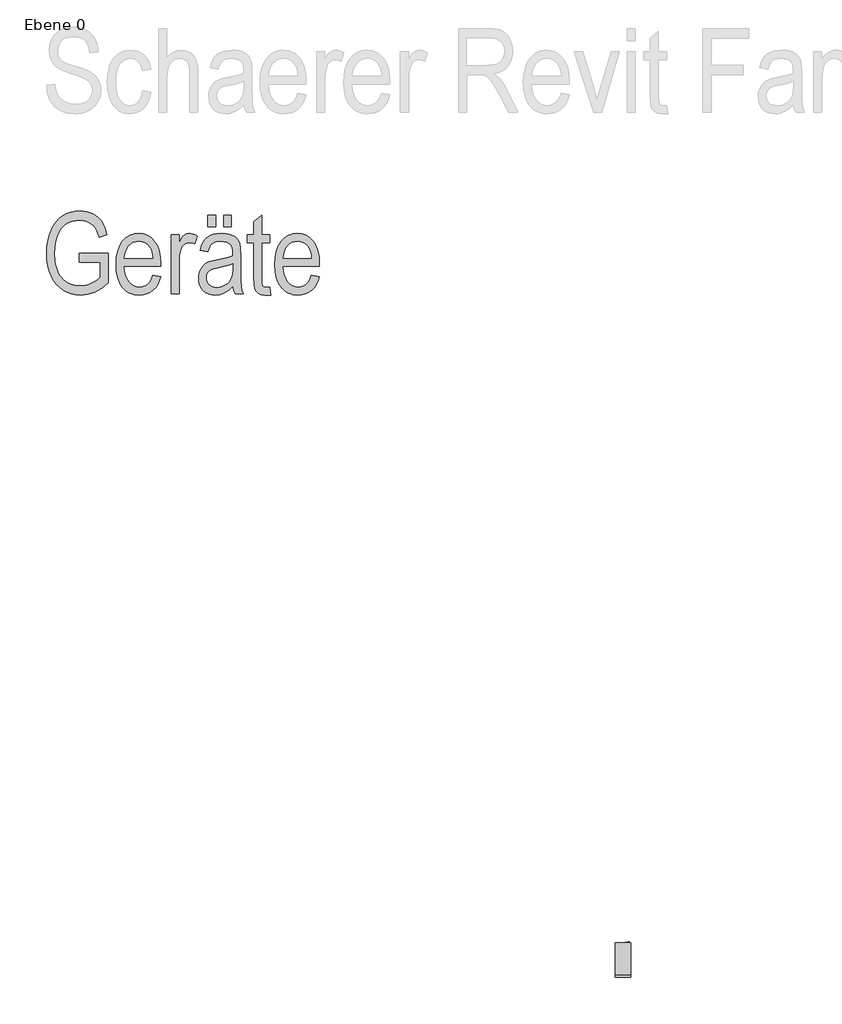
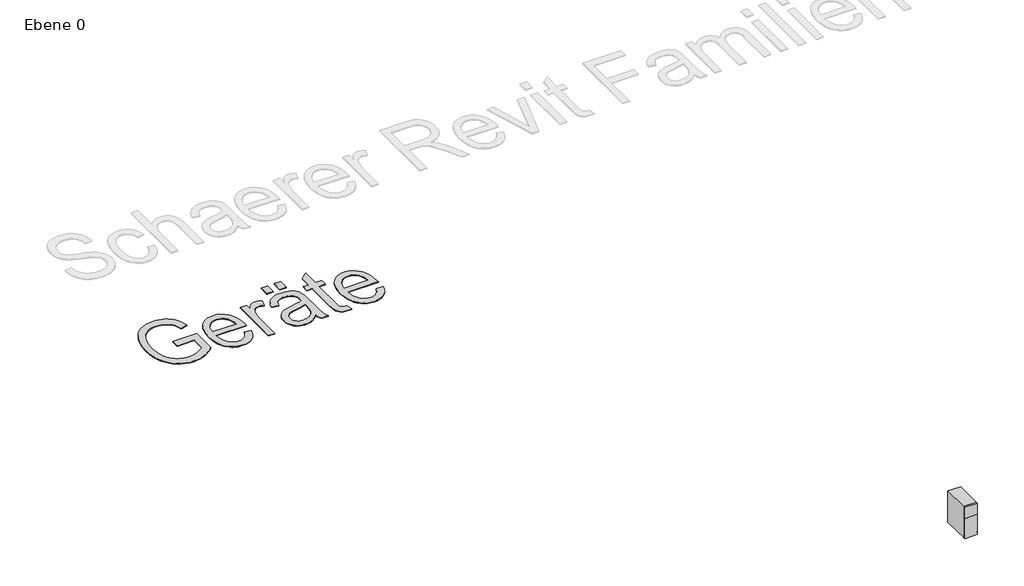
# One storey, part 1 of 2: 2 proxies.
"""IFC4 building model written with IfcOpenShell, lengths in millimetres."""

from ifc_helpers import new_model, si_unit, origin, origin_with_axes, place, context, project, spatial, polyline, outline, extrude, transform, mapped, element, save
from components import specialty_equipment_9da87bf8

model = new_model("IFC4")

# Units and contexts
model_context = context("Model", 3, world=origin())
ifc_project = project(units=[si_unit("LENGTHUNIT", "METRE", prefix="MILLI")], contexts=[model_context])

# Site, building, storey
site = spatial("IfcSite", under=ifc_project)
building = spatial("IfcBuilding", under=site)
storey = spatial("IfcBuildingStorey", under=building, Name="Ebene 0", Elevation=0.0)

# Proxies
placement = place(None, origin())
specialty_equipment_shape = specialty_equipment_9da87bf8(model_context)
element("IfcBuildingElementProxy", 1, Name="QF_SCHAERER_Bestellkühleinheit 7 Liter : Beistellkühleinheit 7 Liter", ObjectType="QF_SCHAERER_Bestellkühleinheit 7 Liter : Beistellkühleinheit 7 Liter", at=placement, inside=storey, context=model_context, shape_type="MappedRepresentation", body=[
    mapped(specialty_equipment_shape, transform((-22972.7283939, 3187.7616131, 0.0), x_axis=(1.0, 0.0, 0.0), y_axis=(0.0, 1.0, 0.0), z_axis=(0.0, 0.0, 1.0))),
])
element("IfcBuildingElementProxy", 2, Name="2000mm Arial", ObjectType="2000mm Arial", at=placement, inside=storey, context=model_context, shape_type="SweptSolid", body=[
    extrude(outline(polyline([(-29581.3885287, 11458.3695551), (-29581.3885287, 11569.9320551), (-29230.7635287, 11569.9320551), (-29230.7635287, 11207.851977), (-29270.459421, 11173.2844111), (-29310.8556918, 11143.2926508), (-29351.952341, 11117.8766962), (-29393.7493685, 11097.0365473), (-29436.1845187, 11080.803332), (-29479.1955355, 11069.2081782), (-29522.7824191, 11062.2510859), (-29566.9451693, 11059.9320551), (-29624.6096591, 11063.6362788), (-29679.0679721, 11074.7489497), (-29730.3201083, 11093.2700678), (-29778.3660678, 11119.1996333), (-29822.3965243, 11152.2341486), (-29861.6021517, 11192.0701167), (-29895.9829501, 11238.7075373), (-29925.5389193, 11292.1464106), (-29949.2895297, 11351.8419978), (-29966.2542514, 11417.24956), (-29976.4330844, 11488.3690974), (-29979.8260287, 11565.2006098), (-29976.4330844, 11643.3861872), (-29966.2542514, 11716.3267085), (-29949.2895297, 11784.0221735), (-29925.5389193, 11846.4725825), (-29896.2942294, 11902.3783442), (-29862.8472689, 11950.4398676), (-29825.198038, 11990.6571528), (-29783.3465365, 12023.0301997), (-29737.3861483, 12047.9247614), (-29687.4102572, 12065.7065913), (-29633.4188632, 12076.3756892), (-29575.4119662, 12079.9320551), (-29532.4787692, 12077.9087397), (-29492.3315219, 12071.8387934), (-29454.9702243, 12061.7222163), (-29420.3948764, 12047.5590083), (-29388.675516, 12029.6915766), (-29359.882181, 12008.4623286), (-29334.0148715, 11983.8712641), (-29311.0735873, 11955.9183833), (-29290.9415988, 11923.5142085), (-29273.5021762, 11885.5692622), (-29258.7553195, 11842.0835444), (-29246.7010287, 11793.0570551), (-29342.3260287, 11761.1820551), (-29364.8626498, 11831.9358393), (-29378.0920199, 11859.6786066), (-29392.6287631, 11882.3319575), (-29409.0254, 11901.3589045), (-29427.8344515, 11918.2224604), (-29472.6897982, 11945.4593989), (-29498.3003024, 11955.4825922), (-29525.451639, 11962.6420161), (-29584.3768099, 11968.3695551), (-29627.8936556, 11965.6769892), (-29668.2977084, 11957.5992915), (-29705.5889681, 11944.1364619), (-29739.7674349, 11925.2885004), (-29770.7864169, 11900.7596919), (-29798.5992221, 11870.2543208), (-29823.2058505, 11833.7723872), (-29844.6063021, 11791.3138911), (-29861.928995, 11743.3768794), (-29874.3023471, 11690.4593989), (-29881.7263583, 11632.5614497), (-29884.2010287, 11569.6830317), (-29878.7847689, 11476.2058588), (-29872.0144442, 11434.1598078), (-29862.5359896, 11395.2421137), (-29850.3494052, 11359.4527766), (-29835.4546908, 11326.7917963), (-29817.8518466, 11297.2591731), (-29797.5408724, 11270.8549067), (-29775.0626162, 11247.5673243), (-29750.9579257, 11227.3847529), (-29725.2268008, 11210.3071925), (-29697.8692416, 11196.334643), (-29668.8852481, 11185.4671046), (-29638.2748202, 11177.7045771), (-29606.037958, 11173.0470606), (-29572.1746615, 11171.4945551), (-29538.8599948, 11173.3933588), (-29505.1562289, 11179.08977), (-29471.0633639, 11188.5837885), (-29436.5813998, 11201.8754145), (-29374.3566683, 11235.1200434), (-29348.5905245, 11253.890185), (-29326.3885287, 11274.0922114), (-29326.3885287, 11458.3695551), (-29581.3885287, 11458.3695551)])), origin_with_axes(), (0.0, 0.0, 1.0), 10.0),
    extrude(outline(polyline([(-28688.8885287, 11298.9945551), (-28593.2635287, 11283.0570551), (-28608.8119296, 11231.1667963), (-28629.5586947, 11186.0624262), (-28655.5038241, 11147.7439448), (-28686.6473178, 11116.211352), (-28722.413309, 11091.5891596), (-28762.225931, 11074.0018794), (-28806.085184, 11063.4495112), (-28853.9910678, 11059.9320551), (-28913.8656405, 11065.8541438), (-28941.550043, 11073.2567545), (-28967.7325228, 11083.6204096), (-28992.4130801, 11096.945109), (-29015.5917147, 11113.2308527), (-29057.4432162, 11154.6854731), (-29075.6530551, 11179.6909281), (-29091.4349154, 11207.3305842), (-29104.7887973, 11237.6044413), (-29115.7147006, 11270.5124995), (-29130.2825717, 11344.231219), (-29135.1385287, 11428.4867426), (-29130.2592257, 11515.7461115), (-29115.6213168, 11592.0017573), (-29104.6428851, 11626.003184), (-29091.2248019, 11657.2536799), (-29075.3670672, 11685.753245), (-29057.069681, 11711.5018794), (-29015.4438571, 11754.154925), (-28992.687395, 11770.9114787), (-28968.6352328, 11784.6213862), (-28943.2873706, 11795.2846476), (-28916.6438082, 11802.9012629), (-28859.4695834, 11808.9945551), (-28804.6922091, 11803.1113764), (-28754.6618441, 11785.4618403), (-28709.3784884, 11756.0459467), (-28668.842142, 11714.8636958), (-28650.9533099, 11690.0158259), (-28635.4496554, 11662.537646), (-28611.5978793, 11599.6903559), (-28597.2868136, 11526.3218256), (-28592.5164584, 11442.4320551), (-28593.2635287, 11410.5570551), (-29039.5135287, 11410.5570551), (-29033.4046725, 11351.1960932), (-29021.5527133, 11299.6171137), (-29003.957651, 11255.8201167), (-28980.6194857, 11219.805102), (-28952.9701022, 11191.6965815), (-28922.4413851, 11171.6190669), (-28889.0333346, 11159.5725581), (-28852.7459506, 11155.5570551), (-28824.4195346, 11157.7982661), (-28798.3343295, 11164.5218989), (-28774.4903353, 11175.7279536), (-28752.8875521, 11191.4164301), (-28733.5259799, 11211.5873286), (-28716.4056185, 11236.2406489), (-28701.5264681, 11265.3763911), (-28688.8885287, 11298.9945551)]), holes=[polyline([(-29033.0389193, 11506.1820551), (-28688.8885287, 11506.1820551), (-28694.1180209, 11550.0413081), (-28702.8338412, 11587.9862544), (-28715.0359896, 11620.016894), (-28730.7244662, 11646.133227), (-28757.5878695, 11675.5491206), (-28787.8753451, 11696.5604731), (-28821.586893, 11709.1672846), (-28858.7225131, 11713.3695551), (-28892.5430087, 11709.867663), (-28923.7798861, 11699.3619868), (-28952.4331454, 11681.8525263), (-28978.5027865, 11657.3392817), (-29000.4946688, 11626.8806025), (-29016.9146517, 11591.5348383), (-29027.7627352, 11551.3019892), (-29033.0389193, 11506.1820551)])]), origin_with_axes(), (0.0, 0.0, 1.0), 10.0),
    extrude(outline(polyline([(-28465.7635287, 11075.8695551), (-28465.7635287, 11793.0570551), (-28370.1385287, 11793.0570551), (-28370.1385287, 11697.930102), (-28338.139017, 11753.8358637), (-28323.1664828, 11773.2908198), (-28308.8787631, 11787.0804926), (-28279.244974, 11803.5160395), (-28246.1248568, 11808.9945551), (-28221.7205599, 11807.0023676), (-28197.0672396, 11801.0258051), (-28172.1648959, 11791.0648676), (-28147.0135287, 11777.1195551), (-28178.8885287, 11681.4945551), (-28216.4910678, 11693.4476801), (-28253.0975131, 11697.4320551), (-28284.3188265, 11691.735644), (-28312.7386264, 11674.6464106), (-28335.7421664, 11647.3472163), (-28350.7147006, 11611.0209223), (-28365.2825717, 11537.7457758), (-28370.1385287, 11459.8636958), (-28370.1385287, 11075.8695551), (-28465.7635287, 11075.8695551)])), origin_with_axes(), (0.0, 0.0, 1.0), 10.0),
    extrude(outline(polyline([(-27716.7010287, 11165.0199458), (-27767.2839144, 11119.1996333), (-27819.9212435, 11086.3285395), (-27847.0103244, 11074.7800776), (-27874.613016, 11066.5311762), (-27902.7293185, 11061.5818354), (-27931.3592318, 11059.9320551), (-27974.6270541, 11063.4028193), (-28013.2879428, 11073.8151118), (-28047.3418978, 11091.1689326), (-28076.7889193, 11115.4642817), (-28100.5395297, 11145.6272456), (-28117.5042514, 11180.5839106), (-28127.6830844, 11220.3342768), (-28131.0760287, 11264.8783442), (-28129.4495944, 11295.1191279), (-28124.5702914, 11323.5856196), (-28116.4381198, 11350.2778193), (-28105.0530795, 11375.195727), (-28090.8509616, 11397.9113337), (-28074.267557, 11417.9966303), (-28055.3028659, 11435.4516169), (-28033.9568881, 11450.2762934), (-28008.5098056, 11462.9064509), (-27977.2418002, 11473.7778803), (-27897.2430209, 11490.2445551), (-27790.5987338, 11512.2831294), (-27749.5565585, 11524.7031733), (-27716.7010287, 11538.0570551), (-27716.7010287, 11568.6869379), (-27718.3975009, 11602.3362299), (-27723.4869174, 11630.5692622), (-27731.9692782, 11653.3860346), (-27743.8445834, 11670.7865473), (-27765.4473666, 11689.4166132), (-27792.1551303, 11702.7238032), (-27823.9678744, 11710.7081171), (-27860.885599, 11713.3695551), (-27894.2547396, 11711.6964289), (-27923.1414584, 11706.6770503), (-27947.5457553, 11698.3114191), (-27967.4676303, 11686.5995356), (-27983.980997, 11670.2651545), (-27998.1597689, 11648.0320307), (-28010.0039462, 11619.9001643), (-28019.5135287, 11585.8695551), (-28115.1385287, 11601.8070551), (-28101.9869784, 11652.2887751), (-28083.4502963, 11695.4087397), (-28059.5284823, 11731.1669489), (-28030.2215365, 11759.5634028), (-27994.7823886, 11781.1895319), (-27952.4639681, 11796.636767), (-27903.2662753, 11805.9051081), (-27847.1893099, 11808.9945551), (-27803.2522372, 11806.823382), (-27764.3267611, 11800.3098628), (-27730.4128817, 11789.4539973), (-27701.510599, 11774.2557856), (-27677.5498751, 11755.8513972), (-27658.4606723, 11735.3770014), (-27644.2429904, 11712.8325983), (-27634.8968295, 11688.2181879), (-27624.5312289, 11625.0907465), (-27621.0760287, 11538.3060786), (-27621.0760287, 11376.1918208), (-27619.4573764, 11237.5791499), (-27614.6014193, 11161.9071528), (-27605.014017, 11118.2969233), (-27589.2010287, 11075.8695551), (-27684.8260287, 11075.8695551), (-27704.9969271, 11116.8339106), (-27716.7010287, 11165.0199458)]), holes=[polyline([(-27716.7010287, 11442.4320551), (-27748.9651278, 11428.8914057), (-27788.2330111, 11416.4091059), (-27887.7801303, 11394.6195551), (-27943.8415316, 11382.8843256), (-27980.0433139, 11369.5926997), (-28003.3892611, 11352.5968501), (-28020.8831576, 11329.7489497), (-28031.8090609, 11302.0139643), (-28035.4510287, 11270.3568598), (-28033.3654574, 11245.5245539), (-28027.1087435, 11223.3225581), (-28016.6808871, 11203.7508723), (-28002.0818881, 11186.8094965), (-27983.7942294, 11173.1365534), (-27962.3003939, 11163.3701655), (-27937.6003817, 11157.5103327), (-27909.6941928, 11155.5570551), (-27882.3171786, 11157.3235651), (-27856.2164096, 11162.6230952), (-27831.3918856, 11171.4556452), (-27807.8436068, 11183.8212153), (-27786.3808993, 11199.1361567), (-27767.8130892, 11216.8168208), (-27752.1401766, 11236.8632075), (-27739.3621615, 11259.2753169), (-27729.4479159, 11285.5706355), (-27722.3663119, 11317.2666499), (-27718.1173495, 11354.3633601), (-27716.7010287, 11396.8607661), (-27716.7010287, 11442.4320551)])]), origin_with_axes(), (0.0, 0.0, 1.0), 10.0),
    extrude(outline(polyline([(-27828.2635287, 11888.6820551), (-27828.2635287, 12032.1195551), (-27732.6385287, 12032.1195551), (-27732.6385287, 11888.6820551), (-27828.2635287, 11888.6820551)])), origin_with_axes(), (0.0, 0.0, 1.0), 10.0),
    extrude(outline(polyline([(-28019.5135287, 11888.6820551), (-28019.5135287, 12032.1195551), (-27923.8885287, 12032.1195551), (-27923.8885287, 11888.6820551), (-28019.5135287, 11888.6820551)])), origin_with_axes(), (0.0, 0.0, 1.0), 10.0),
    extrude(outline(polyline([(-27270.4510287, 11155.5570551), (-27254.5135287, 11059.9320551), (-27326.7303256, 11059.9320551), (-27372.1771029, 11065.1304194), (-27391.2585238, 11071.6283747), (-27407.9119662, 11080.7255122), (-27433.9349154, 11105.3477045), (-27450.2459506, 11137.6273676), (-27458.8372592, 11191.6031977), (-27461.7010287, 11281.3138911), (-27461.7010287, 11697.4320551), (-27541.3885287, 11697.4320551), (-27541.3885287, 11793.0570551), (-27461.7010287, 11793.0570551), (-27461.7010287, 11952.4320551), (-27366.0760287, 12032.1195551), (-27366.0760287, 11793.0570551), (-27270.4510287, 11793.0570551), (-27270.4510287, 11697.4320551), (-27366.0760287, 11697.4320551), (-27366.0760287, 11259.3998286), (-27363.9593295, 11209.4083735), (-27357.6092318, 11180.9574458), (-27350.2941683, 11169.8447749), (-27340.3021029, 11161.9071528), (-27327.6330355, 11157.1445795), (-27312.2869662, 11155.5570551), (-27270.4510287, 11155.5570551)])), origin_with_axes(), (0.0, 0.0, 1.0), 10.0),
    extrude(outline(polyline([(-26760.4510287, 11298.9945551), (-26664.8260287, 11283.0570551), (-26680.3744296, 11231.1667963), (-26701.1211947, 11186.0624262), (-26727.0663241, 11147.7439448), (-26758.2098178, 11116.211352), (-26793.975809, 11091.5891596), (-26833.788431, 11074.0018794), (-26877.647684, 11063.4495112), (-26925.5535678, 11059.9320551), (-26985.4281405, 11065.8541438), (-27013.112543, 11073.2567545), (-27039.2950228, 11083.6204096), (-27063.9755801, 11096.945109), (-27087.1542147, 11113.2308527), (-27129.0057162, 11154.6854731), (-27147.2155551, 11179.6909281), (-27162.9974154, 11207.3305842), (-27176.3512973, 11237.6044413), (-27187.2772006, 11270.5124995), (-27201.8450717, 11344.231219), (-27206.7010287, 11428.4867426), (-27201.8217257, 11515.7461115), (-27187.1838168, 11592.0017573), (-27176.2053851, 11626.003184), (-27162.7873019, 11657.2536799), (-27146.9295672, 11685.753245), (-27128.632181, 11711.5018794), (-27087.0063571, 11754.154925), (-27064.249895, 11770.9114787), (-27040.1977328, 11784.6213862), (-27014.8498706, 11795.2846476), (-26988.2063082, 11802.9012629), (-26931.0320834, 11808.9945551), (-26876.2547091, 11803.1113764), (-26826.2243441, 11785.4618403), (-26780.9409884, 11756.0459467), (-26740.404642, 11714.8636958), (-26722.5158099, 11690.0158259), (-26707.0121554, 11662.537646), (-26683.1603793, 11599.6903559), (-26668.8493136, 11526.3218256), (-26664.0789584, 11442.4320551), (-26664.8260287, 11410.5570551), (-27111.0760287, 11410.5570551), (-27104.9671725, 11351.1960932), (-27093.1152133, 11299.6171137), (-27075.520151, 11255.8201167), (-27052.1819857, 11219.805102), (-27024.5326022, 11191.6965815), (-26994.0038851, 11171.6190669), (-26960.5958346, 11159.5725581), (-26924.3084506, 11155.5570551), (-26895.9820346, 11157.7982661), (-26869.8968295, 11164.5218989), (-26846.0528353, 11175.7279536), (-26824.4500521, 11191.4164301), (-26805.0884799, 11211.5873286), (-26787.9681185, 11236.2406489), (-26773.0889681, 11265.3763911), (-26760.4510287, 11298.9945551)]), holes=[polyline([(-27104.6014193, 11506.1820551), (-26760.4510287, 11506.1820551), (-26765.6805209, 11550.0413081), (-26774.3963412, 11587.9862544), (-26786.5984896, 11620.016894), (-26802.2869662, 11646.133227), (-26829.1503695, 11675.5491206), (-26859.4378451, 11696.5604731), (-26893.149393, 11709.1672846), (-26930.2850131, 11713.3695551), (-26964.1055087, 11709.867663), (-26995.3423861, 11699.3619868), (-27023.9956454, 11681.8525263), (-27050.0652865, 11657.3392817), (-27072.0571688, 11626.8806025), (-27088.4771517, 11591.5348383), (-27099.3252352, 11551.3019892), (-27104.6014193, 11506.1820551)])]), origin_with_axes(), (0.0, 0.0, 1.0), 10.0),
])

save(model, "model.ifc")
